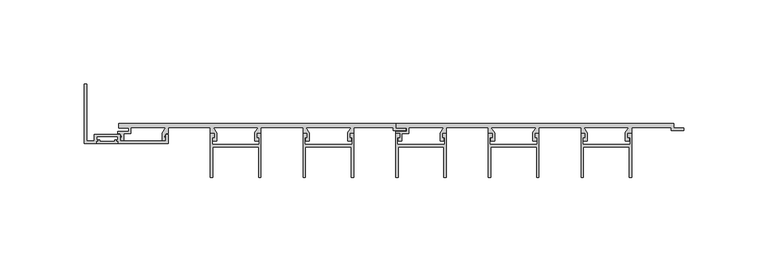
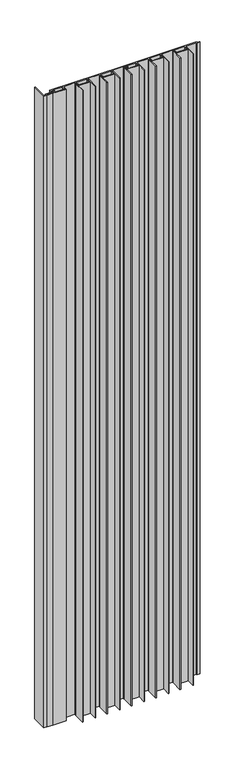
"""IFC4 building model written with IfcOpenShell, lengths in millimetres: proxy geometry, A_GEN_LINE_Main Base_Blade Cap_LTrim : A_GEN_LINE_Main Base_Blade Cap_LTrim."""

from ifc_helpers import new_model, si_unit, origin, origin_with_axes, place, context, project, spatial, polyline, outline, extrude, source, transform, mapped, element, save


def generic_models_e953c286(model_context):
    return source(origin(), model_context, "Body", "SweptSolid", [
        extrude(outline(polyline([(-13.0106499, -11.8818695), (-13.0106499, -10.9050009), (-12.1106499, -10.9050009), (-12.1106499, -10.0050009), (-11.2354943, -10.0050009), (-11.2354943, -10.9050009), (-2.1892046, -10.9050009), (-2.1892046, -10.0050009), (-1.314049, -10.0050009), (-1.314049, -10.9050009), (-0.414049, -10.9050009), (-0.414049, -11.8818695), (-13.0106499, -11.8818695)])), origin_with_axes(), (0.0, 0.0, 1.0), 1500.0),
        extrude(outline(polyline([(-0.414049, -10.9050009), (-1.314049, -10.9050009), (-1.314049, -10.0050009), (-0.414049, -10.0050009), (-0.414049, -7.8818695), (-13.0306499, -7.8818695), (-13.0306499, -10.0050009), (-12.1306499, -10.0050009), (-12.1306499, -10.9050009), (-13.0306499, -10.9050009), (-13.0306499, -11.8818695), (-20.3575953, -11.8818695), (-20.3575953, 23.3746551), (-18.9575953, 23.3746551), (-18.9575953, -10.4818695), (-14.4306499, -10.4818695), (-14.4306499, -6.4818695), (0.985951, -6.4818695), (0.985951, -10.4818695), (28.1839928, -10.4818695), (28.1839928, -6.4818695), (29.5839928, -6.4818695), (29.5839928, -11.8818695), (-0.414049, -11.8818695), (-0.414049, -10.9050009)])), origin_with_axes(), (0.0, 0.0, 1.0), 1500.0),
        extrude(outline(polyline([(274.5919, -32.0289818), (274.5919, -6.1), (276.8166172, -6.1), (276.8166172, -8.3419727), (275.5102205, -8.7617834), (275.5102205, -12.5079436), (303.6735796, -12.5079436), (303.6735796, -8.7374539), (302.4428931, -8.3419727), (302.4428931, -6.1), (304.5919, -6.1), (304.5919, -32.0289818), (303.1919, -32.0289818), (303.1919, -13.9079436), (275.9919, -13.9079436), (275.9919, -32.0289818), (274.5919, -32.0289818)])), origin_with_axes(), (0.0, 0.0, 1.0), 1500.0),
        extrude(outline(polyline([(219.5902928, -32.0289818), (219.5902928, -6.1), (221.81501, -6.1), (221.81501, -8.3419727), (220.5086133, -8.7617834), (220.5086133, -12.5079436), (248.6719724, -12.5079436), (248.6719724, -8.7374539), (247.4412859, -8.3419727), (247.4412859, -6.1), (249.5902928, -6.1), (249.5902928, -32.0289818), (248.1902928, -32.0289818), (248.1902928, -13.9079436), (220.9902928, -13.9079436), (220.9902928, -32.0289818), (219.5902928, -32.0289818)])), origin_with_axes(), (0.0, 0.0, 1.0), 1500.0),
        extrude(outline(polyline([(164.5886856, -32.0289818), (164.5886856, -6.1), (166.8134028, -6.1), (166.8134028, -8.3419727), (165.5070061, -8.7617834), (165.5070061, -12.5079436), (193.6703652, -12.5079436), (193.6703652, -8.7374539), (192.4396787, -8.3419727), (192.4396787, -6.1), (194.5886856, -6.1), (194.5886856, -32.0289818), (193.1886856, -32.0289818), (193.1886856, -13.9079436), (165.9886856, -13.9079436), (165.9886856, -32.0289818), (164.5886856, -32.0289818)])), origin_with_axes(), (0.0, 0.0, 1.0), 1500.0),
        extrude(outline(polyline([(109.5870785, -32.0289818), (109.5870785, -6.1), (111.8117956, -6.1), (111.8117956, -8.3419727), (110.5053989, -8.7617834), (110.5053989, -12.5079436), (138.668758, -12.5079436), (138.668758, -8.7374539), (137.4380715, -8.3419727), (137.4380715, -6.1), (139.5870785, -6.1), (139.5870785, -32.0289818), (138.1870785, -32.0289818), (138.1870785, -13.9079436), (110.9870785, -13.9079436), (110.9870785, -32.0289818), (109.5870785, -32.0289818)])), origin_with_axes(), (0.0, 0.0, 1.0), 1500.0),
        extrude(outline(polyline([(54.5854713, -32.0289818), (54.5854713, -6.1), (56.8101884, -6.1), (56.8101884, -8.3419727), (55.5037917, -8.7617834), (55.5037917, -12.5079436), (83.6671508, -12.5079436), (83.6671508, -8.7374539), (82.4364643, -8.3419727), (82.4364643, -6.1), (84.5854713, -6.1), (84.5854713, -32.0289818), (83.1854713, -32.0289818), (83.1854713, -13.9079436), (55.9854713, -13.9079436), (55.9854713, -32.0289818), (54.5854713, -32.0289818)])), origin_with_axes(), (0.0, 0.0, 1.0), 1500.0),
        extrude(outline(polyline([(165.0, 0.0), (329.5761088, 0.0), (329.5761088, -2.85), (335.5761088, -2.85), (335.5761088, -4.2), (328.0577537, -4.2), (328.0577537, -2.4), (304.5881862, -2.4), (304.5881862, -6.1021884), (303.4732128, -6.1021884), (301.884647, -8.4994005), (303.1465809, -8.4994005), (303.1465809, -10.4818695), (300.9440548, -10.4818695), (300.9773381, -5.5238337), (303.0474159, -2.4), (276.1309809, -2.4), (278.2301021, -5.6343123), (278.2301021, -10.4818695), (276.027576, -10.4818695), (276.027576, -8.4994005), (277.2895099, -8.4994005), (275.7009441, -6.1021884), (274.5859707, -6.1021884), (274.5859707, -2.4), (249.5854713, -2.4), (249.5854713, -6.1021884), (248.4704978, -6.1021884), (246.881932, -8.4994005), (248.1438659, -8.4994005), (248.1438659, -10.4818695), (245.9413399, -10.4818695), (245.9413399, -5.5740595), (248.0447009, -2.4), (221.1304815, -2.4), (223.2296027, -5.6343123), (223.2296027, -10.4818695), (221.0270766, -10.4818695), (221.0270766, -8.4994005), (222.2890105, -8.4994005), (220.7004447, -6.1021884), (219.5854713, -6.1021884), (219.5854713, -2.4), (194.5849719, -2.4), (194.5849719, -6.1021884), (193.4699984, -6.1021884), (191.8814326, -8.4994005), (193.1433665, -8.4994005), (193.1433665, -10.4818695), (190.9408405, -10.4818695), (190.9408405, -5.6343123), (193.0399616, -2.4), (172.2195527, -2.4), (172.2195527, -6.1), (168.2291033, -6.1), (168.2291033, -10.4818695), (166.0265772, -10.4818695), (166.0265772, -8.4994005), (167.2885111, -8.4994005), (165.6999453, -6.1021884), (164.6137598, -6.1021884), (164.6137598, -4.9), (171.0195527, -4.9), (171.0195527, -2.7), (165.0, -2.7), (165.0, 0.0)])), origin_with_axes(), (0.0, 0.0, 1.0), 1500.0),
        extrude(outline(polyline([(0.0, 0.0), (164.5761088, 0.0), (164.5761088, -2.85), (170.5761088, -2.85), (170.5761088, -4.2), (163.0577537, -4.2), (163.0577537, -2.4), (139.5881862, -2.4), (139.5881862, -6.1021884), (138.4732128, -6.1021884), (136.884647, -8.4994005), (138.1465809, -8.4994005), (138.1465809, -10.4818695), (135.9440548, -10.4818695), (135.9773381, -5.5238337), (138.0474159, -2.4), (111.1309809, -2.4), (113.2301021, -5.6343123), (113.2301021, -10.4818695), (111.027576, -10.4818695), (111.027576, -8.4994005), (112.2895099, -8.4994005), (110.7009441, -6.1021884), (109.5859707, -6.1021884), (109.5859707, -2.4), (84.5854713, -2.4), (84.5854713, -6.1021884), (83.4704978, -6.1021884), (81.881932, -8.4994005), (83.1438659, -8.4994005), (83.1438659, -10.4818695), (80.9413399, -10.4818695), (80.9413399, -5.5740595), (83.0447009, -2.4), (56.1304815, -2.4), (58.2296027, -5.6343123), (58.2296027, -10.4818695), (56.0270766, -10.4818695), (56.0270766, -8.4994005), (57.2890105, -8.4994005), (55.7004447, -6.1021884), (54.5854713, -6.1021884), (54.5854713, -2.4), (29.5849719, -2.4), (29.5849719, -6.1021884), (28.4699984, -6.1021884), (26.8814326, -8.4994005), (28.1433665, -8.4994005), (28.1433665, -10.4818695), (25.9408405, -10.4818695), (25.9408405, -5.6343123), (28.0399616, -2.4), (7.2195527, -2.4), (7.2195527, -6.1), (3.2291033, -6.1), (3.2291033, -10.4818695), (1.0265772, -10.4818695), (1.0265772, -8.4994005), (2.2885111, -8.4994005), (0.6999453, -6.1021884), (-0.3862402, -6.1021884), (-0.3862402, -4.9), (6.0195527, -4.9), (6.0195527, -2.7), (0.0, -2.7), (0.0, 0.0)])), origin_with_axes(), (0.0, 0.0, 1.0), 1500.0),
    ])


if __name__ == "__main__":
    model = new_model("IFC4")
    model_context = context("Model", 3, world=origin())
    ifc_project = project(units=[si_unit("LENGTHUNIT", "METRE", prefix="MILLI")], contexts=[model_context])
    site = spatial("IfcSite", under=ifc_project)
    building = spatial("IfcBuilding", under=site)
    placement = place(None, origin())
    generic_models_shape = generic_models_e953c286(model_context)
    element("IfcBuildingElementProxy", 1, Name="A_GEN_LINE_Main Base_Blade Cap_LTrim : A_GEN_LINE_Main Base_Blade Cap_LTrim", ObjectType="A_GEN_LINE_Main Base_Blade Cap_LTrim : A_GEN_LINE_Main Base_Blade Cap_LTrim", at=placement, inside=building, context=model_context, shape_type="MappedRepresentation", body=[
        mapped(generic_models_shape, transform((0.0, 0.0, 0.0), x_axis=(1.0, 0.0, 0.0), y_axis=(0.0, 1.0, 0.0), z_axis=(0.0, 0.0, 1.0))),
    ])
    save(model, "model.ifc")
